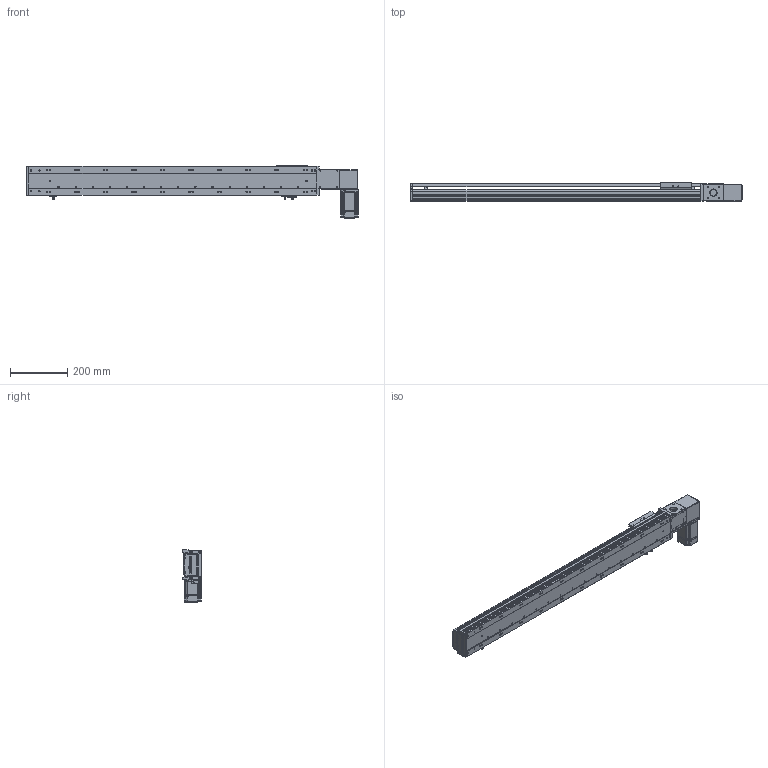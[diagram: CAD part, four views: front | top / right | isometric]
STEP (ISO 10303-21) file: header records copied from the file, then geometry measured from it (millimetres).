
FILE_DESCRIPTION (( 'STEP AP203' ), '1' );
FILE_NAME ('RY100-T-300-LK.SLDASM_800.step', '2024-04-25T05:37:14', ( '盈信电脑' ), ( '东莞市道滘镇水果街19号' ), 'SwSTEP 2.0', 'SolidWorks 2016', '' );
FILE_SCHEMA (( 'CONFIG_CONTROL_DESIGN' ));
Length unit declared in the file: millimetre
Products named in the file (13): RY80-T肮祭謫俋欶; RY100-T翋肮祭謫裔啣2; 滅袉蝶18-10; 1; RY100俋离覜茼え; RY100-T-300-LK.SLDASM_800; RY100-T-300-RK倰第奻裔_800; RY100-T左右折电机安装板; RY100-T肮祭謫臏賑輸; 覜茼ん672; RY100-T肮祭謫翋盓傅釱; RY100-T-300-RK倰第菁釱_800; RY100綴裔啣
Assembly tree (16 placements, depth 2):
  RY100-T-300-LK.SLDASM_800
    RY100-T-300-RK倰第菁釱_800
    RY100-T-300-RK倰第奻裔_800
    RY100-T肮祭謫臏賑輸
    RY100綴裔啣
    覜茼ん672  x3
    RY100俋离覜茼え
    RY100-T肮祭謫翋盓傅釱
    滅袉蝶18-10  x2
    RY100-T翋肮祭謫裔啣2  x2
    RY80-T肮祭謫俋欶
    RY100-T左右折电机安装板
    1
Bounding box: 1164 x 66 x 182.5 mm (x, y, z)
Volume: 2288815.7 mm3; surface area: 932199.1 mm2
Topology: 16 solids, 16 shells, 2208 faces, 6186 edges, 4022 vertices
Faces by surface type: plane 1186, cylinder 807, cone 137, bspline 78
Entity records: 71082 total; most frequent: CARTESIAN_POINT 17569, ORIENTED_EDGE 11108, DIRECTION 10486, EDGE_CURVE 5554, VERTEX_POINT 3658, VECTOR 3558, LINE 3558, AXIS2_PLACEMENT_3D 3464
